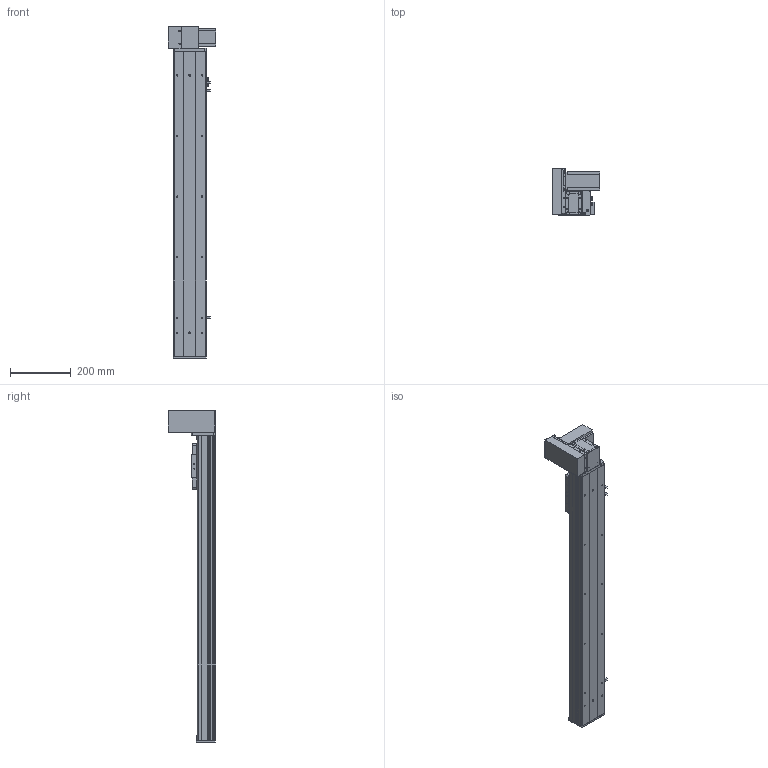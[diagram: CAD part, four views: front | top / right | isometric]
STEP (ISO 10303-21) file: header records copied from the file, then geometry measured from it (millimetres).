
FILE_DESCRIPTION (( 'STEP AP203' ), '1' );
FILE_NAME ('Y10CB-D90-S750-UL-P400W.STEP', '2020-02-16T07:14:05', ( '微软用户' ), ( '微软中国' ), 'SwSTEP 2.0', 'SolidWorks 2017', '' );
FILE_SCHEMA (( 'CONFIG_CONTROL_DESIGN' ));
Length unit declared in the file: millimetre
Products named in the file (18): Y10B-耜蚾蟀諉啣----; 0B-埴倛裔啣; 00B-俋欶BM--; 10CB-詩湍-; Y10B--々湍喘謫眊--666; Y10CB- 掛极耜裔啣-毀---; 0CB-雄赽釱---; Y10CB-D90-S750-UL-P400W; Y10C---詩湍揤啣; 0Cb-俋欶---; 10CB9-掛极; Y10B-々湍喘謫眊楊擘啣--; 10CB-耜裔; 0B-萇儂楊擘啣; Y135C-陔俋离換覜結え-; san松下电机400不带刹车----; Y100-135俋离換覜ん--; 0B-源倛裔啣
Assembly tree (21 placements, depth 2):
  Y10CB-D90-S750-UL-P400W
    0CB-雄赽釱---
    0Cb-俋欶---
    Y10B-々湍喘謫眊楊擘啣--
    0B-萇儂楊擘啣
    san松下电机400不带刹车----
    0B-源倛裔啣
    0B-埴倛裔啣
    10CB-詩湍-
    Y10CB- 掛极耜裔啣-毀---  x2
    Y10C---詩湍揤啣  x2
    10CB9-掛极
    10CB-耜裔
    Y135C-陔俋离換覜結え-
    Y100-135俋离換覜ん--  x3
    Y10B-耜蚾蟀諉啣----
    00B-俋欶BM--
    Y10B--々湍喘謫眊--666
Bounding box: 157 x 155.5 x 1096 mm (x, y, z)
Volume: 2699530 mm3; surface area: 1191537.7 mm2
Topology: 21 solids, 21 shells, 978 faces, 2603 edges, 1706 vertices
Faces by surface type: cylinder 479, plane 475, cone 24
Entity records: 30412 total; most frequent: CARTESIAN_POINT 5321, DIRECTION 4930, ORIENTED_EDGE 4676, EDGE_CURVE 2338, AXIS2_PLACEMENT_3D 1765, VERTEX_POINT 1532, LINE 1400, VECTOR 1400
